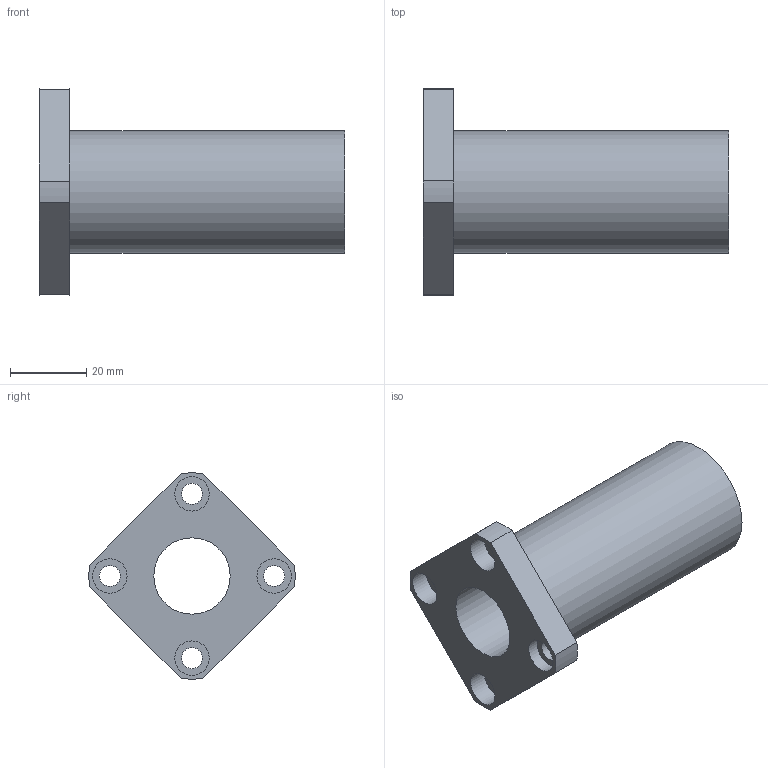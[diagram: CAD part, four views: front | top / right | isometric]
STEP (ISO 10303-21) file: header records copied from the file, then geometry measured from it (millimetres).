
FILE_DESCRIPTION( ( 'STEP AP203' ), '1' );
FILE_NAME( 'p:/temp/worker_11/temp/exporttempdir_2968_2274_RisCY/format_0/LMEK20LUU.stp', '2020-05-07T07:02:03', ( 'License CC BY-ND 4.0' ), ( 'CADENAS' ), ' ', 'PARTsolutions', ' ' );
FILE_SCHEMA( ( 'CONFIG_CONTROL_DESIGN' ) );
Length unit declared in the file: millimetre
Products named in the file (1): _LMEK20LUU
Bounding box: 80 x 53.97 x 53.97 mm (x, y, z)
Volume: 45150 mm3; surface area: 16938.1 mm2
Topology: 1 solids, 1 shells, 25 faces, 55 edges, 37 vertices
Faces by surface type: cylinder 14, plane 11
Full cylindrical faces by diameter (mm): 5.5 x4, 9 x4, 20 x1, 32 x1
Entity records: 710 total; most frequent: DIRECTION 124, CARTESIAN_POINT 106, ORIENTED_EDGE 88, AXIS2_PLACEMENT_3D 54, EDGE_LOOP 50, EDGE_CURVE 44, VERTEX_POINT 36, FACE_OUTER_BOUND 35
